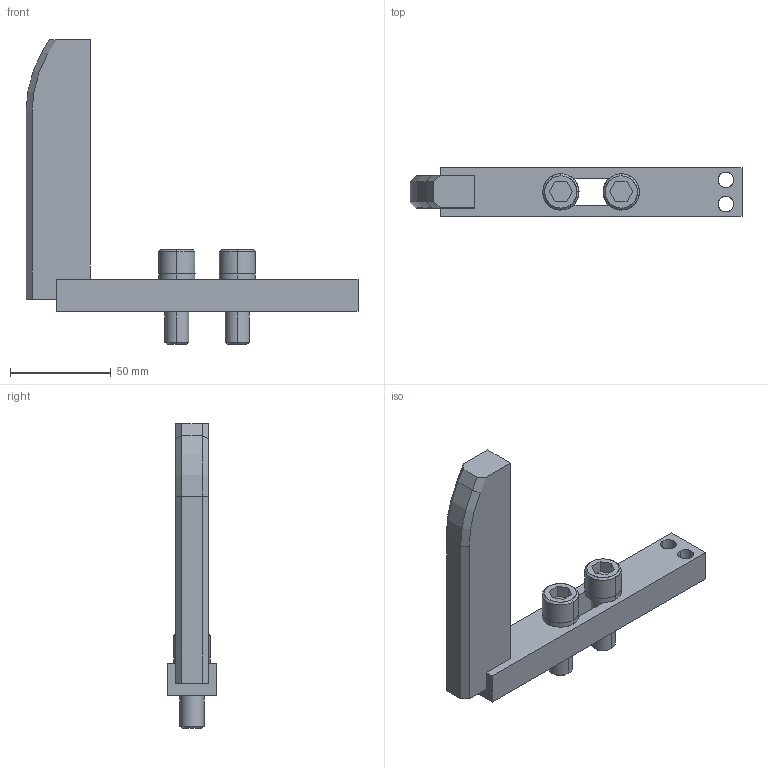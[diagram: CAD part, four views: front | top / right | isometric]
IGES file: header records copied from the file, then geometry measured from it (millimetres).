
Global section: file name: E:\UnigraphicsGraphicData\MISUMI_PRESS-PARTS\IGES\3d_ngnx-135-20-a150-b60-m12_01566_r00.igs; native system: NX V5.0; preprocessor: UGS NX IGES V5.0; author: MISUMI; date: 20110105.162102; units: millimetre
Bounding box: 165 x 24 x 151.5 mm (x, y, z)
Surface area: 33607.3 mm2 (no closed solid volume)
Topology: 0 solids, 0 shells, 100 faces, 630 edges, 630 vertices
Faces by surface type: bspline 100
